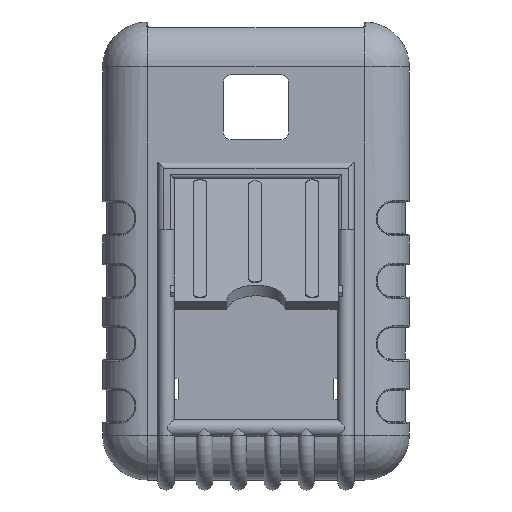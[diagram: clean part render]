
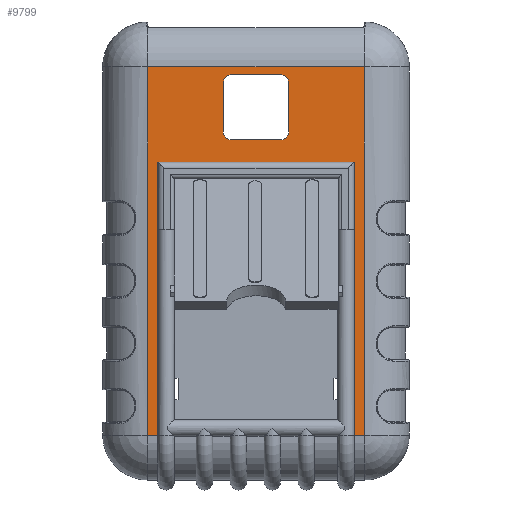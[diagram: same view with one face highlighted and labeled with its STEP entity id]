
A CAD part, front view. The second image highlights one B-rep face of the part: STEP entity #9799.
In plain terms, the highlighted planar face has unit normal (0, -1, 0).
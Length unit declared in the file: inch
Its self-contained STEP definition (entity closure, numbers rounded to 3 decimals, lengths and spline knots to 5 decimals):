
#69 = CARTESIAN_POINT ( 'NONE',  ( -0.94488, 0., 0.20669 ) ) ;
#376 = LINE ( 'NONE', #69, #4623 ) ;
#587 = DIRECTION ( 'NONE',  ( -1., 0., 0. ) ) ;
#689 = CARTESIAN_POINT ( 'NONE',  ( 0.31496, 0., 1.14764 ) ) ;
#743 = ORIENTED_EDGE ( 'NONE', *, *, #12256, .T. ) ;
#829 = DIRECTION ( 'NONE',  ( 0., 1., 0. ) ) ;
#886 = ORIENTED_EDGE ( 'NONE', *, *, #17685, .T. ) ;
#938 = CARTESIAN_POINT ( 'NONE',  ( 0., 0., 1.77165 ) ) ;
#1099 = EDGE_CURVE ( 'NONE', #20210, #5604, #18144, .T. ) ;
#1183 = ORIENTED_EDGE ( 'NONE', *, *, #15091, .F. ) ;
#1579 = EDGE_LOOP ( 'NONE', ( #11335, #6273, #4342, #886, #8985, #11856, #13301, #15431 ) ) ;
#1583 = AXIS2_PLACEMENT_3D ( 'NONE', #8582, #2147, #13437 ) ;
#1618 = CIRCLE ( 'NONE', #8599, 0.07874 ) ;
#1805 = CARTESIAN_POINT ( 'NONE',  ( 0., 0., -1.77165 ) ) ;
#1932 = EDGE_CURVE ( 'NONE', #10847, #10505, #16320, .T. ) ;
#2147 = DIRECTION ( 'NONE',  ( 0., 1., 0. ) ) ;
#2621 = CARTESIAN_POINT ( 'NONE',  ( 0.94488, 0., 0.8563 ) ) ;
#2913 = CARTESIAN_POINT ( 'NONE',  ( -0.23622, 0., 1.0689 ) ) ;
#3354 = ORIENTED_EDGE ( 'NONE', *, *, #18814, .T. ) ;
#3551 = CARTESIAN_POINT ( 'NONE',  ( 0.31496, 0., 1.62008 ) ) ;
#3597 = VECTOR ( 'NONE', #587, 39.37008 ) ;
#3627 = DIRECTION ( 'NONE',  ( 0., 1., 0. ) ) ;
#3733 = EDGE_CURVE ( 'NONE', #18453, #7320, #16009, .T. ) ;
#4148 = FACE_BOUND ( 'NONE', #1579, .T. ) ;
#4342 = ORIENTED_EDGE ( 'NONE', *, *, #9108, .T. ) ;
#4352 = EDGE_CURVE ( 'NONE', #13899, #20210, #10574, .T. ) ;
#4623 = VECTOR ( 'NONE', #12950, 39.37008 ) ;
#4624 = LINE ( 'NONE', #938, #17552 ) ;
#4659 = CARTESIAN_POINT ( 'NONE',  ( -0.23622, 0., 1.14764 ) ) ;
#4830 = CARTESIAN_POINT ( 'NONE',  ( 0.23622, 0., 1.69882 ) ) ;
#5059 = CARTESIAN_POINT ( 'NONE',  ( 0.23622, 0., 1.0689 ) ) ;
#5134 = VECTOR ( 'NONE', #19745, 39.37008 ) ;
#5290 = VECTOR ( 'NONE', #17636, 39.37008 ) ;
#5507 = VERTEX_POINT ( 'NONE', #17064 ) ;
#5604 = VERTEX_POINT ( 'NONE', #7564 ) ;
#5922 = DIRECTION ( 'NONE',  ( 0., 1., 0. ) ) ;
#6128 = ORIENTED_EDGE ( 'NONE', *, *, #7878, .F. ) ;
#6219 = CARTESIAN_POINT ( 'NONE',  ( -1.04331, 0., 1.77165 ) ) ;
#6273 = ORIENTED_EDGE ( 'NONE', *, *, #20472, .T. ) ;
#6295 = DIRECTION ( 'NONE',  ( 0., 0., -1. ) ) ;
#6318 = CARTESIAN_POINT ( 'NONE',  ( -1.04331, 0., 0. ) ) ;
#6698 = CARTESIAN_POINT ( 'NONE',  ( 0.94488, 0., -1.77165 ) ) ;
#6748 = AXIS2_PLACEMENT_3D ( 'NONE', #10472, #829, #12090 ) ;
#6914 = CARTESIAN_POINT ( 'NONE',  ( -1.04331, 0., -1.77165 ) ) ;
#6926 = LINE ( 'NONE', #19133, #11731 ) ;
#7001 = DIRECTION ( 'NONE',  ( -1., 0., 0. ) ) ;
#7261 = CARTESIAN_POINT ( 'NONE',  ( 0.31496, 0., 1.62008 ) ) ;
#7320 = VERTEX_POINT ( 'NONE', #19583 ) ;
#7330 = CARTESIAN_POINT ( 'NONE',  ( -0.23622, 0., 1.69882 ) ) ;
#7564 = CARTESIAN_POINT ( 'NONE',  ( -0.31496, 0., 1.14764 ) ) ;
#7569 = VECTOR ( 'NONE', #20353, 39.37008 ) ;
#7862 = ORIENTED_EDGE ( 'NONE', *, *, #3733, .T. ) ;
#7878 = EDGE_CURVE ( 'NONE', #9046, #11600, #7886, .T. ) ;
#7886 = LINE ( 'NONE', #10225, #3597 ) ;
#8416 = CARTESIAN_POINT ( 'NONE',  ( -0.94488, 0., 0.8563 ) ) ;
#8532 = EDGE_CURVE ( 'NONE', #13943, #15645, #6926, .T. ) ;
#8582 = CARTESIAN_POINT ( 'NONE',  ( 0., 0., 0. ) ) ;
#8599 = AXIS2_PLACEMENT_3D ( 'NONE', #15609, #5922, #17249 ) ;
#8985 = ORIENTED_EDGE ( 'NONE', *, *, #4352, .T. ) ;
#9046 = VERTEX_POINT ( 'NONE', #13069 ) ;
#9108 = EDGE_CURVE ( 'NONE', #16631, #17426, #9435, .T. ) ;
#9168 = EDGE_CURVE ( 'NONE', #5507, #15216, #4624, .T. ) ;
#9435 = LINE ( 'NONE', #3551, #5134 ) ;
#9440 = DIRECTION ( 'NONE',  ( 1., 0., 0. ) ) ;
#9602 = LINE ( 'NONE', #6318, #5290 ) ;
#9799 = ADVANCED_FACE ( 'NONE', ( #4148, #20856 ), #15016, .F. ) ;
#10225 = CARTESIAN_POINT ( 'NONE',  ( -0.94488, 0., 0.8563 ) ) ;
#10472 = CARTESIAN_POINT ( 'NONE',  ( -0.23622, 0., 1.62008 ) ) ;
#10505 = VERTEX_POINT ( 'NONE', #7330 ) ;
#10574 = LINE ( 'NONE', #16699, #14386 ) ;
#10699 = EDGE_CURVE ( 'NONE', #5604, #10847, #15707, .T. ) ;
#10847 = VERTEX_POINT ( 'NONE', #18468 ) ;
#11335 = ORIENTED_EDGE ( 'NONE', *, *, #13005, .T. ) ;
#11458 = CARTESIAN_POINT ( 'NONE',  ( -0.23622, 0., 1.69882 ) ) ;
#11469 = DIRECTION ( 'NONE',  ( 1., 0., 0. ) ) ;
#11538 = CARTESIAN_POINT ( 'NONE',  ( -0.31496, 0., 1.62008 ) ) ;
#11600 = VERTEX_POINT ( 'NONE', #8416 ) ;
#11731 = VECTOR ( 'NONE', #9440, 39.37008 ) ;
#11856 = ORIENTED_EDGE ( 'NONE', *, *, #1099, .T. ) ;
#11889 = EDGE_LOOP ( 'NONE', ( #1183, #7862, #743, #12679, #3354, #16915, #12297, #6128 ) ) ;
#12090 = DIRECTION ( 'NONE',  ( 0., 0., -1. ) ) ;
#12213 = DIRECTION ( 'NONE',  ( -1., 0., 0. ) ) ;
#12256 = EDGE_CURVE ( 'NONE', #7320, #5507, #13797, .T. ) ;
#12297 = ORIENTED_EDGE ( 'NONE', *, *, #18177, .F. ) ;
#12664 = CARTESIAN_POINT ( 'NONE',  ( 1.04331, 0., 0. ) ) ;
#12679 = ORIENTED_EDGE ( 'NONE', *, *, #9168, .T. ) ;
#12950 = DIRECTION ( 'NONE',  ( 0., 0., -1. ) ) ;
#13005 = EDGE_CURVE ( 'NONE', #10505, #18174, #14047, .T. ) ;
#13069 = CARTESIAN_POINT ( 'NONE',  ( 0.94488, 0., 0.8563 ) ) ;
#13265 = CARTESIAN_POINT ( 'NONE',  ( 0.23622, 0., 1.14764 ) ) ;
#13301 = ORIENTED_EDGE ( 'NONE', *, *, #10699, .T. ) ;
#13437 = DIRECTION ( 'NONE',  ( 0., 0., 1. ) ) ;
#13797 = LINE ( 'NONE', #12664, #16626 ) ;
#13899 = VERTEX_POINT ( 'NONE', #5059 ) ;
#13943 = VERTEX_POINT ( 'NONE', #6914 ) ;
#14047 = LINE ( 'NONE', #11458, #17369 ) ;
#14386 = VECTOR ( 'NONE', #7001, 39.37008 ) ;
#14795 = DIRECTION ( 'NONE',  ( 0., 0., 1. ) ) ;
#14920 = DIRECTION ( 'NONE',  ( 0., 0., -1. ) ) ;
#15016 = PLANE ( 'NONE',  #1583 ) ;
#15091 = EDGE_CURVE ( 'NONE', #18453, #9046, #16205, .T. ) ;
#15216 = VERTEX_POINT ( 'NONE', #6219 ) ;
#15431 = ORIENTED_EDGE ( 'NONE', *, *, #1932, .T. ) ;
#15609 = CARTESIAN_POINT ( 'NONE',  ( 0.23622, 0., 1.62008 ) ) ;
#15645 = VERTEX_POINT ( 'NONE', #18471 ) ;
#15707 = LINE ( 'NONE', #11538, #18996 ) ;
#15996 = DIRECTION ( 'NONE',  ( 0., 1., 0. ) ) ;
#16009 = LINE ( 'NONE', #1805, #20286 ) ;
#16205 = LINE ( 'NONE', #2621, #7569 ) ;
#16320 = CIRCLE ( 'NONE', #6748, 0.07874 ) ;
#16626 = VECTOR ( 'NONE', #17580, 39.37008 ) ;
#16631 = VERTEX_POINT ( 'NONE', #7261 ) ;
#16699 = CARTESIAN_POINT ( 'NONE',  ( -0.23622, 0., 1.0689 ) ) ;
#16915 = ORIENTED_EDGE ( 'NONE', *, *, #8532, .T. ) ;
#17064 = CARTESIAN_POINT ( 'NONE',  ( 1.04331, 0., 1.77165 ) ) ;
#17249 = DIRECTION ( 'NONE',  ( 0., 0., 1. ) ) ;
#17369 = VECTOR ( 'NONE', #17918, 39.37008 ) ;
#17420 = AXIS2_PLACEMENT_3D ( 'NONE', #13265, #3627, #14920 ) ;
#17426 = VERTEX_POINT ( 'NONE', #689 ) ;
#17552 = VECTOR ( 'NONE', #12213, 39.37008 ) ;
#17580 = DIRECTION ( 'NONE',  ( 0., 0., 1. ) ) ;
#17636 = DIRECTION ( 'NONE',  ( 0., 0., -1. ) ) ;
#17685 = EDGE_CURVE ( 'NONE', #17426, #13899, #19343, .T. ) ;
#17918 = DIRECTION ( 'NONE',  ( 1., 0., 0. ) ) ;
#18144 = CIRCLE ( 'NONE', #19205, 0.07874 ) ;
#18174 = VERTEX_POINT ( 'NONE', #4830 ) ;
#18177 = EDGE_CURVE ( 'NONE', #11600, #15645, #376, .T. ) ;
#18453 = VERTEX_POINT ( 'NONE', #6698 ) ;
#18468 = CARTESIAN_POINT ( 'NONE',  ( -0.31496, 0., 1.62008 ) ) ;
#18471 = CARTESIAN_POINT ( 'NONE',  ( -0.94488, 0., -1.77165 ) ) ;
#18814 = EDGE_CURVE ( 'NONE', #15216, #13943, #9602, .T. ) ;
#18996 = VECTOR ( 'NONE', #14795, 39.37008 ) ;
#19133 = CARTESIAN_POINT ( 'NONE',  ( 0., 0., -1.77165 ) ) ;
#19205 = AXIS2_PLACEMENT_3D ( 'NONE', #4659, #15996, #6295 ) ;
#19343 = CIRCLE ( 'NONE', #17420, 0.07874 ) ;
#19583 = CARTESIAN_POINT ( 'NONE',  ( 1.04331, 0., -1.77165 ) ) ;
#19745 = DIRECTION ( 'NONE',  ( 0., 0., -1. ) ) ;
#20210 = VERTEX_POINT ( 'NONE', #2913 ) ;
#20286 = VECTOR ( 'NONE', #11469, 39.37008 ) ;
#20353 = DIRECTION ( 'NONE',  ( 0., 0., 1. ) ) ;
#20472 = EDGE_CURVE ( 'NONE', #18174, #16631, #1618, .T. ) ;
#20856 = FACE_OUTER_BOUND ( 'NONE', #11889, .T. ) ;
